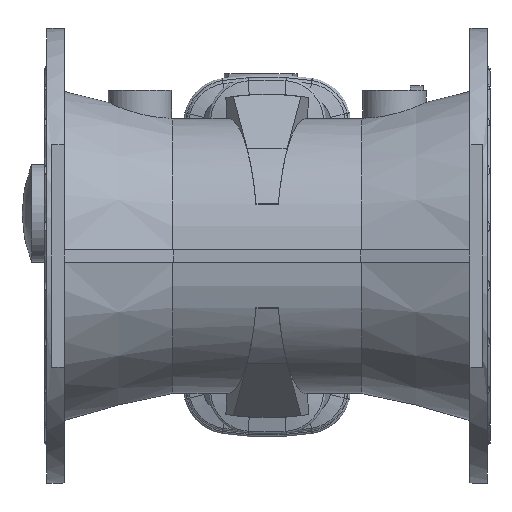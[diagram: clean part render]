
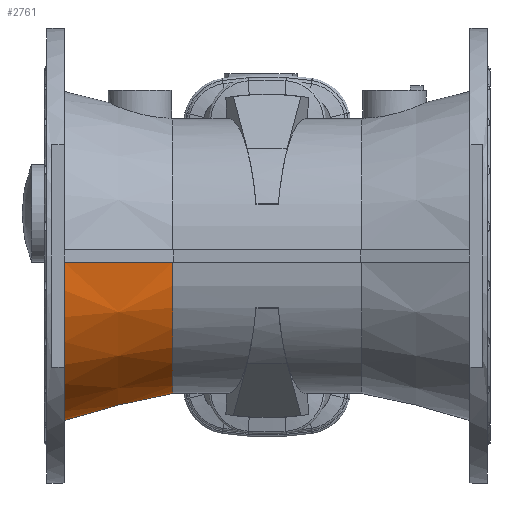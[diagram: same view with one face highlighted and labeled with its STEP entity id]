
A CAD part, front view. The second image highlights one B-rep face of the part: STEP entity #2761.
In plain terms, the highlighted conical face has half-angle 14 degrees and reference radius 216 mm.
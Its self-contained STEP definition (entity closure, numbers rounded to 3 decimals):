
#1761 = B_SPLINE_CURVE_WITH_KNOTS ( 'NONE', 3,
 ( #6901, #6896, #6897, #6902 ),
 .UNSPECIFIED., .F., .F.,
 ( 4, 4 ),
 ( 0.321, 0.496 ),
 .UNSPECIFIED. ) ;
#1833 = B_SPLINE_CURVE_WITH_KNOTS ( 'NONE', 3,
 ( #7278, #7273, #7274, #7279 ),
 .UNSPECIFIED., .F., .F.,
 ( 4, 4 ),
 ( 0.332, 0.507 ),
 .UNSPECIFIED. ) ;
#2116 = EDGE_LOOP ( 'NONE', ( #2202, #2286, #2314, #2275 ) ) ;
#2202 = ORIENTED_EDGE ( 'NONE', *, *, #17448, .T. ) ;
#2275 = ORIENTED_EDGE ( 'NONE', *, *, #2918, .F. ) ;
#2286 = ORIENTED_EDGE ( 'NONE', *, *, #2828, .T. ) ;
#2314 = ORIENTED_EDGE ( 'NONE', *, *, #2932, .F. ) ;
#2761 = ADVANCED_FACE ( 'NONE', ( #11077 ), #11083, .T. ) ;
#2828 = EDGE_CURVE ( 'NONE', #3228, #4661, #1761, .T. ) ;
#2918 = EDGE_CURVE ( 'NONE', #3231, #4703, #1833, .T. ) ;
#2932 = EDGE_CURVE ( 'NONE', #4703, #4661, #11269, .T. ) ;
#3228 = VERTEX_POINT ( 'NONE', #7427 ) ;
#3231 = VERTEX_POINT ( 'NONE', #7429 ) ;
#4661 = VERTEX_POINT ( 'NONE', #7602 ) ;
#4703 = VERTEX_POINT ( 'NONE', #7644 ) ;
#6036 = AXIS2_PLACEMENT_3D ( 'NONE', #6589, #6588, #6587 ) ;
#6118 = AXIS2_PLACEMENT_3D ( 'NONE', #7313, #7314, #7315 ) ;
#6338 = AXIS2_PLACEMENT_3D ( 'NONE', #11762, #11763, #11764 ) ;
#6587 = DIRECTION ( 'NONE',  ( 0., 0., -1. ) ) ;
#6588 = DIRECTION ( 'NONE',  ( -1., 0., 0. ) ) ;
#6589 = CARTESIAN_POINT ( 'NONE',  ( -148.5, 0., 0. ) ) ;
#6896 = CARTESIAN_POINT ( 'NONE',  ( -205.166, -229.912, -10. ) ) ;
#6897 = CARTESIAN_POINT ( 'NONE',  ( -261.833, -244.053, -10. ) ) ;
#6901 = CARTESIAN_POINT ( 'NONE',  ( -148.5, -215.768, -10. ) ) ;
#6902 = CARTESIAN_POINT ( 'NONE',  ( -318.5, -258.192, -10. ) ) ;
#7273 = CARTESIAN_POINT ( 'NONE',  ( -205.166, 230.022, -7. ) ) ;
#7274 = CARTESIAN_POINT ( 'NONE',  ( -261.833, 244.157, -7. ) ) ;
#7278 = CARTESIAN_POINT ( 'NONE',  ( -148.5, 215.887, -7. ) ) ;
#7279 = CARTESIAN_POINT ( 'NONE',  ( -318.5, 258.291, -7. ) ) ;
#7313 = CARTESIAN_POINT ( 'NONE',  ( -318.5, 0., 0. ) ) ;
#7314 = DIRECTION ( 'NONE',  ( -1., 0., 0. ) ) ;
#7315 = DIRECTION ( 'NONE',  ( 0., 0., 1. ) ) ;
#7427 = CARTESIAN_POINT ( 'NONE',  ( -148.5, -215.768, -10. ) ) ;
#7429 = CARTESIAN_POINT ( 'NONE',  ( -148.5, 215.887, -7. ) ) ;
#7602 = CARTESIAN_POINT ( 'NONE',  ( -318.5, -258.192, -10. ) ) ;
#7644 = CARTESIAN_POINT ( 'NONE',  ( -318.5, 258.291, -7. ) ) ;
#8880 = CIRCLE ( 'NONE', #6338, 216. ) ;
#11077 = FACE_OUTER_BOUND ( 'NONE', #2116, .T. ) ;
#11083 = CONICAL_SURFACE ( 'NONE', #6036, 216., 0.244 ) ;
#11269 = CIRCLE ( 'NONE', #6118, 258.386 ) ;
#11762 = CARTESIAN_POINT ( 'NONE',  ( -148.5, 0., 0. ) ) ;
#11763 = DIRECTION ( 'NONE',  ( -1., 0., 0. ) ) ;
#11764 = DIRECTION ( 'NONE',  ( 0., 0., 1. ) ) ;
#17448 = EDGE_CURVE ( 'NONE', #3231, #3228, #8880, .T. ) ;
